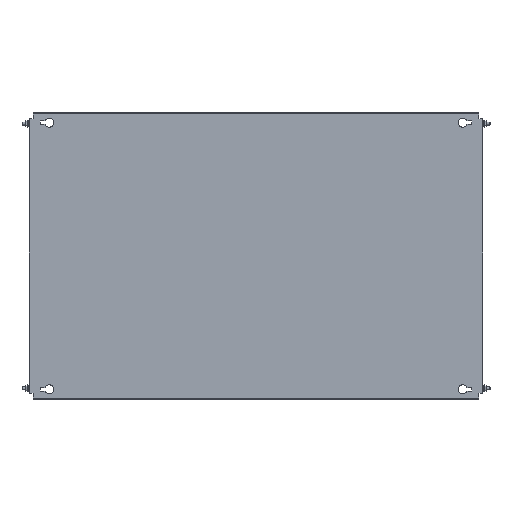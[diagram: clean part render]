
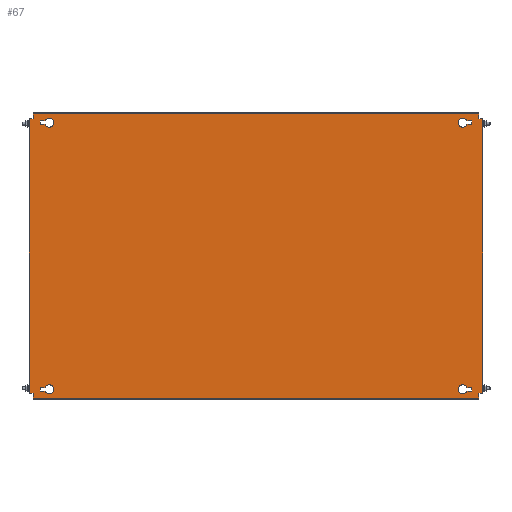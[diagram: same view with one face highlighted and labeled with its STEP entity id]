
A CAD part, top view. The second image highlights one B-rep face of the part: STEP entity #67.
In plain terms, the highlighted planar face has unit normal (0, 0, 1).
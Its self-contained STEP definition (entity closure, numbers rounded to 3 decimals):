
#67 = ADVANCED_FACE('',(#68,#103,#138,#300,#335),#370,.T.);
#68 = FACE_BOUND('',#69,.T.);
#69 = EDGE_LOOP('',(#70,#80,#88,#96));
#70 = ORIENTED_EDGE('',*,*,#71,.T.);
#71 = EDGE_CURVE('',#72,#74,#76,.T.);
#72 = VERTEX_POINT('',#73);
#73 = CARTESIAN_POINT('',(418.393,267.75,2.));
#74 = VERTEX_POINT('',#75);
#75 = CARTESIAN_POINT('',(428.,267.75,2.));
#76 = LINE('',#77,#78);
#77 = CARTESIAN_POINT('',(427.,267.75,2.));
#78 = VECTOR('',#79,1.);
#79 = DIRECTION('',(1.,0.,0.));
#80 = ORIENTED_EDGE('',*,*,#81,.T.);
#81 = EDGE_CURVE('',#74,#82,#84,.T.);
#82 = VERTEX_POINT('',#83);
#83 = CARTESIAN_POINT('',(428.,261.25,2.));
#84 = LINE('',#85,#86);
#85 = CARTESIAN_POINT('',(428.,267.75,2.));
#86 = VECTOR('',#87,1.);
#87 = DIRECTION('',(0.,-1.,0.));
#88 = ORIENTED_EDGE('',*,*,#89,.T.);
#89 = EDGE_CURVE('',#82,#90,#92,.T.);
#90 = VERTEX_POINT('',#91);
#91 = CARTESIAN_POINT('',(418.393,261.25,2.));
#92 = LINE('',#93,#94);
#93 = CARTESIAN_POINT('',(427.,261.25,2.));
#94 = VECTOR('',#95,1.);
#95 = DIRECTION('',(-1.,0.,0.));
#96 = ORIENTED_EDGE('',*,*,#97,.T.);
#97 = EDGE_CURVE('',#90,#72,#98,.T.);
#98 = CIRCLE('',#99,9.);
#99 = AXIS2_PLACEMENT_3D('',#100,#101,#102);
#100 = CARTESIAN_POINT('',(410.,264.5,2.));
#101 = DIRECTION('',(0.,0.,-1.));
#102 = DIRECTION('',(1.,0.,0.));
#103 = FACE_BOUND('',#104,.T.);
#104 = EDGE_LOOP('',(#105,#115,#123,#131));
#105 = ORIENTED_EDGE('',*,*,#106,.T.);
#106 = EDGE_CURVE('',#107,#109,#111,.T.);
#107 = VERTEX_POINT('',#108);
#108 = CARTESIAN_POINT('',(-418.393,-267.75,2.));
#109 = VERTEX_POINT('',#110);
#110 = CARTESIAN_POINT('',(-428.,-267.75,2.));
#111 = LINE('',#112,#113);
#112 = CARTESIAN_POINT('',(-427.,-267.75,2.));
#113 = VECTOR('',#114,1.);
#114 = DIRECTION('',(-1.,0.,0.));
#115 = ORIENTED_EDGE('',*,*,#116,.T.);
#116 = EDGE_CURVE('',#109,#117,#119,.T.);
#117 = VERTEX_POINT('',#118);
#118 = CARTESIAN_POINT('',(-428.,-261.25,2.));
#119 = LINE('',#120,#121);
#120 = CARTESIAN_POINT('',(-428.,-267.75,2.));
#121 = VECTOR('',#122,1.);
#122 = DIRECTION('',(0.,1.,0.));
#123 = ORIENTED_EDGE('',*,*,#124,.T.);
#124 = EDGE_CURVE('',#117,#125,#127,.T.);
#125 = VERTEX_POINT('',#126);
#126 = CARTESIAN_POINT('',(-418.393,-261.25,2.));
#127 = LINE('',#128,#129);
#128 = CARTESIAN_POINT('',(-427.,-261.25,2.));
#129 = VECTOR('',#130,1.);
#130 = DIRECTION('',(1.,0.,-0.));
#131 = ORIENTED_EDGE('',*,*,#132,.T.);
#132 = EDGE_CURVE('',#125,#107,#133,.T.);
#133 = CIRCLE('',#134,9.);
#134 = AXIS2_PLACEMENT_3D('',#135,#136,#137);
#135 = CARTESIAN_POINT('',(-410.,-264.5,2.));
#136 = DIRECTION('',(0.,0.,-1.));
#137 = DIRECTION('',(-1.,0.,0.));
#138 = FACE_BOUND('',#139,.T.);
#139 = EDGE_LOOP('',(#140,#150,#158,#166,#174,#182,#190,#198,#206,#214,
    #222,#230,#238,#246,#254,#262,#270,#278,#286,#294));
#140 = ORIENTED_EDGE('',*,*,#141,.F.);
#141 = EDGE_CURVE('',#142,#144,#146,.T.);
#142 = VERTEX_POINT('',#143);
#143 = CARTESIAN_POINT('',(-447.4,272.5,2.));
#144 = VERTEX_POINT('',#145);
#145 = CARTESIAN_POINT('',(-442.,272.5,2.));
#146 = LINE('',#147,#148);
#147 = CARTESIAN_POINT('',(-448.,272.5,2.));
#148 = VECTOR('',#149,1.);
#149 = DIRECTION('',(1.,0.,-0.));
#150 = ORIENTED_EDGE('',*,*,#151,.T.);
#151 = EDGE_CURVE('',#142,#152,#154,.T.);
#152 = VERTEX_POINT('',#153);
#153 = CARTESIAN_POINT('',(-450.,272.5,2.));
#154 = LINE('',#155,#156);
#155 = CARTESIAN_POINT('',(-447.4,272.5,2.));
#156 = VECTOR('',#157,1.);
#157 = DIRECTION('',(-1.,0.,0.));
#158 = ORIENTED_EDGE('',*,*,#159,.F.);
#159 = EDGE_CURVE('',#160,#152,#162,.T.);
#160 = VERTEX_POINT('',#161);
#161 = CARTESIAN_POINT('',(-450.,-272.5,2.));
#162 = LINE('',#163,#164);
#163 = CARTESIAN_POINT('',(-450.,-282.5,2.));
#164 = VECTOR('',#165,1.);
#165 = DIRECTION('',(0.,1.,-0.));
#166 = ORIENTED_EDGE('',*,*,#167,.F.);
#167 = EDGE_CURVE('',#168,#160,#170,.T.);
#168 = VERTEX_POINT('',#169);
#169 = CARTESIAN_POINT('',(-447.4,-272.5,2.));
#170 = LINE('',#171,#172);
#171 = CARTESIAN_POINT('',(-442.,-272.5,2.));
#172 = VECTOR('',#173,1.);
#173 = DIRECTION('',(-1.,-0.,-0.));
#174 = ORIENTED_EDGE('',*,*,#175,.T.);
#175 = EDGE_CURVE('',#168,#176,#178,.T.);
#176 = VERTEX_POINT('',#177);
#177 = CARTESIAN_POINT('',(-442.,-272.5,2.));
#178 = LINE('',#179,#180);
#179 = CARTESIAN_POINT('',(-448.,-272.5,2.));
#180 = VECTOR('',#181,1.);
#181 = DIRECTION('',(1.,0.,-0.));
#182 = ORIENTED_EDGE('',*,*,#183,.T.);
#183 = EDGE_CURVE('',#176,#184,#186,.T.);
#184 = VERTEX_POINT('',#185);
#185 = CARTESIAN_POINT('',(-442.,-281.9,2.));
#186 = LINE('',#187,#188);
#187 = CARTESIAN_POINT('',(-442.,282.5,2.));
#188 = VECTOR('',#189,1.);
#189 = DIRECTION('',(0.,-1.,0.));
#190 = ORIENTED_EDGE('',*,*,#191,.T.);
#191 = EDGE_CURVE('',#184,#192,#194,.T.);
#192 = VERTEX_POINT('',#193);
#193 = CARTESIAN_POINT('',(-442.,-282.5,2.));
#194 = LINE('',#195,#196);
#195 = CARTESIAN_POINT('',(-442.,-281.9,2.));
#196 = VECTOR('',#197,1.);
#197 = DIRECTION('',(-0.,-1.,-0.));
#198 = ORIENTED_EDGE('',*,*,#199,.T.);
#199 = EDGE_CURVE('',#192,#200,#202,.T.);
#200 = VERTEX_POINT('',#201);
#201 = CARTESIAN_POINT('',(442.,-282.5,2.));
#202 = LINE('',#203,#204);
#203 = CARTESIAN_POINT('',(442.,-282.5,2.));
#204 = VECTOR('',#205,1.);
#205 = DIRECTION('',(1.,0.,0.));
#206 = ORIENTED_EDGE('',*,*,#207,.F.);
#207 = EDGE_CURVE('',#208,#200,#210,.T.);
#208 = VERTEX_POINT('',#209);
#209 = CARTESIAN_POINT('',(442.,-281.9,2.));
#210 = LINE('',#211,#212);
#211 = CARTESIAN_POINT('',(442.,-282.5,2.));
#212 = VECTOR('',#213,1.);
#213 = DIRECTION('',(0.,-1.,0.));
#214 = ORIENTED_EDGE('',*,*,#215,.T.);
#215 = EDGE_CURVE('',#208,#216,#218,.T.);
#216 = VERTEX_POINT('',#217);
#217 = CARTESIAN_POINT('',(442.,-272.5,2.));
#218 = LINE('',#219,#220);
#219 = CARTESIAN_POINT('',(442.,282.5,2.));
#220 = VECTOR('',#221,1.);
#221 = DIRECTION('',(0.,1.,-0.));
#222 = ORIENTED_EDGE('',*,*,#223,.F.);
#223 = EDGE_CURVE('',#224,#216,#226,.T.);
#224 = VERTEX_POINT('',#225);
#225 = CARTESIAN_POINT('',(447.4,-272.5,2.));
#226 = LINE('',#227,#228);
#227 = CARTESIAN_POINT('',(448.,-272.5,2.));
#228 = VECTOR('',#229,1.);
#229 = DIRECTION('',(-1.,0.,-0.));
#230 = ORIENTED_EDGE('',*,*,#231,.T.);
#231 = EDGE_CURVE('',#224,#232,#234,.T.);
#232 = VERTEX_POINT('',#233);
#233 = CARTESIAN_POINT('',(450.,-272.5,2.));
#234 = LINE('',#235,#236);
#235 = CARTESIAN_POINT('',(447.4,-272.5,2.));
#236 = VECTOR('',#237,1.);
#237 = DIRECTION('',(1.,-0.,0.));
#238 = ORIENTED_EDGE('',*,*,#239,.F.);
#239 = EDGE_CURVE('',#240,#232,#242,.T.);
#240 = VERTEX_POINT('',#241);
#241 = CARTESIAN_POINT('',(450.,272.5,2.));
#242 = LINE('',#243,#244);
#243 = CARTESIAN_POINT('',(450.,-282.5,2.));
#244 = VECTOR('',#245,1.);
#245 = DIRECTION('',(0.,-1.,-0.));
#246 = ORIENTED_EDGE('',*,*,#247,.F.);
#247 = EDGE_CURVE('',#248,#240,#250,.T.);
#248 = VERTEX_POINT('',#249);
#249 = CARTESIAN_POINT('',(447.4,272.5,2.));
#250 = LINE('',#251,#252);
#251 = CARTESIAN_POINT('',(-442.,272.5,2.));
#252 = VECTOR('',#253,1.);
#253 = DIRECTION('',(1.,-0.,0.));
#254 = ORIENTED_EDGE('',*,*,#255,.T.);
#255 = EDGE_CURVE('',#248,#256,#258,.T.);
#256 = VERTEX_POINT('',#257);
#257 = CARTESIAN_POINT('',(442.,272.5,2.));
#258 = LINE('',#259,#260);
#259 = CARTESIAN_POINT('',(448.,272.5,2.));
#260 = VECTOR('',#261,1.);
#261 = DIRECTION('',(-1.,0.,-0.));
#262 = ORIENTED_EDGE('',*,*,#263,.T.);
#263 = EDGE_CURVE('',#256,#264,#266,.T.);
#264 = VERTEX_POINT('',#265);
#265 = CARTESIAN_POINT('',(442.,281.9,2.));
#266 = LINE('',#267,#268);
#267 = CARTESIAN_POINT('',(442.,282.5,2.));
#268 = VECTOR('',#269,1.);
#269 = DIRECTION('',(0.,1.,-0.));
#270 = ORIENTED_EDGE('',*,*,#271,.T.);
#271 = EDGE_CURVE('',#264,#272,#274,.T.);
#272 = VERTEX_POINT('',#273);
#273 = CARTESIAN_POINT('',(442.,282.5,2.));
#274 = LINE('',#275,#276);
#275 = CARTESIAN_POINT('',(442.,281.9,2.));
#276 = VECTOR('',#277,1.);
#277 = DIRECTION('',(-0.,1.,-0.));
#278 = ORIENTED_EDGE('',*,*,#279,.T.);
#279 = EDGE_CURVE('',#272,#280,#282,.T.);
#280 = VERTEX_POINT('',#281);
#281 = CARTESIAN_POINT('',(-442.,282.5,2.));
#282 = LINE('',#283,#284);
#283 = CARTESIAN_POINT('',(-442.,282.5,2.));
#284 = VECTOR('',#285,1.);
#285 = DIRECTION('',(-1.,0.,0.));
#286 = ORIENTED_EDGE('',*,*,#287,.F.);
#287 = EDGE_CURVE('',#288,#280,#290,.T.);
#288 = VERTEX_POINT('',#289);
#289 = CARTESIAN_POINT('',(-442.,281.9,2.));
#290 = LINE('',#291,#292);
#291 = CARTESIAN_POINT('',(-442.,-282.5,2.));
#292 = VECTOR('',#293,1.);
#293 = DIRECTION('',(0.,1.,-0.));
#294 = ORIENTED_EDGE('',*,*,#295,.T.);
#295 = EDGE_CURVE('',#288,#144,#296,.T.);
#296 = LINE('',#297,#298);
#297 = CARTESIAN_POINT('',(-442.,282.5,2.));
#298 = VECTOR('',#299,1.);
#299 = DIRECTION('',(0.,-1.,0.));
#300 = FACE_BOUND('',#301,.T.);
#301 = EDGE_LOOP('',(#302,#312,#320,#328));
#302 = ORIENTED_EDGE('',*,*,#303,.F.);
#303 = EDGE_CURVE('',#304,#306,#308,.T.);
#304 = VERTEX_POINT('',#305);
#305 = CARTESIAN_POINT('',(428.,-261.25,2.));
#306 = VERTEX_POINT('',#307);
#307 = CARTESIAN_POINT('',(418.393,-261.25,2.));
#308 = LINE('',#309,#310);
#309 = CARTESIAN_POINT('',(418.393,-261.25,2.));
#310 = VECTOR('',#311,1.);
#311 = DIRECTION('',(-1.,0.,0.));
#312 = ORIENTED_EDGE('',*,*,#313,.F.);
#313 = EDGE_CURVE('',#314,#304,#316,.T.);
#314 = VERTEX_POINT('',#315);
#315 = CARTESIAN_POINT('',(428.,-267.75,2.));
#316 = LINE('',#317,#318);
#317 = CARTESIAN_POINT('',(428.,-261.25,2.));
#318 = VECTOR('',#319,1.);
#319 = DIRECTION('',(0.,1.,0.));
#320 = ORIENTED_EDGE('',*,*,#321,.F.);
#321 = EDGE_CURVE('',#322,#314,#324,.T.);
#322 = VERTEX_POINT('',#323);
#323 = CARTESIAN_POINT('',(418.393,-267.75,2.));
#324 = LINE('',#325,#326);
#325 = CARTESIAN_POINT('',(427.,-267.75,2.));
#326 = VECTOR('',#327,1.);
#327 = DIRECTION('',(1.,0.,0.));
#328 = ORIENTED_EDGE('',*,*,#329,.F.);
#329 = EDGE_CURVE('',#306,#322,#330,.T.);
#330 = CIRCLE('',#331,9.);
#331 = AXIS2_PLACEMENT_3D('',#332,#333,#334);
#332 = CARTESIAN_POINT('',(410.,-264.5,2.));
#333 = DIRECTION('',(0.,-0.,1.));
#334 = DIRECTION('',(1.,0.,0.));
#335 = FACE_BOUND('',#336,.T.);
#336 = EDGE_LOOP('',(#337,#347,#355,#363));
#337 = ORIENTED_EDGE('',*,*,#338,.F.);
#338 = EDGE_CURVE('',#339,#341,#343,.T.);
#339 = VERTEX_POINT('',#340);
#340 = CARTESIAN_POINT('',(-428.,261.25,2.));
#341 = VERTEX_POINT('',#342);
#342 = CARTESIAN_POINT('',(-418.393,261.25,2.));
#343 = LINE('',#344,#345);
#344 = CARTESIAN_POINT('',(-418.393,261.25,2.));
#345 = VECTOR('',#346,1.);
#346 = DIRECTION('',(1.,0.,0.));
#347 = ORIENTED_EDGE('',*,*,#348,.F.);
#348 = EDGE_CURVE('',#349,#339,#351,.T.);
#349 = VERTEX_POINT('',#350);
#350 = CARTESIAN_POINT('',(-428.,267.75,2.));
#351 = LINE('',#352,#353);
#352 = CARTESIAN_POINT('',(-428.,261.25,2.));
#353 = VECTOR('',#354,1.);
#354 = DIRECTION('',(0.,-1.,0.));
#355 = ORIENTED_EDGE('',*,*,#356,.F.);
#356 = EDGE_CURVE('',#357,#349,#359,.T.);
#357 = VERTEX_POINT('',#358);
#358 = CARTESIAN_POINT('',(-418.393,267.75,2.));
#359 = LINE('',#360,#361);
#360 = CARTESIAN_POINT('',(-427.,267.75,2.));
#361 = VECTOR('',#362,1.);
#362 = DIRECTION('',(-1.,0.,0.));
#363 = ORIENTED_EDGE('',*,*,#364,.F.);
#364 = EDGE_CURVE('',#341,#357,#365,.T.);
#365 = CIRCLE('',#366,9.);
#366 = AXIS2_PLACEMENT_3D('',#367,#368,#369);
#367 = CARTESIAN_POINT('',(-410.,264.5,2.));
#368 = DIRECTION('',(0.,-0.,1.));
#369 = DIRECTION('',(-1.,0.,0.));
#370 = PLANE('',#371);
#371 = AXIS2_PLACEMENT_3D('',#372,#373,#374);
#372 = CARTESIAN_POINT('',(-442.,-282.5,2.));
#373 = DIRECTION('',(-0.,0.,1.));
#374 = DIRECTION('',(1.,0.,0.));
